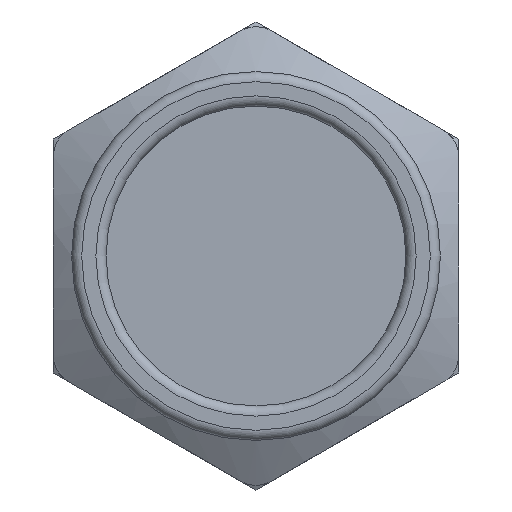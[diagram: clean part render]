
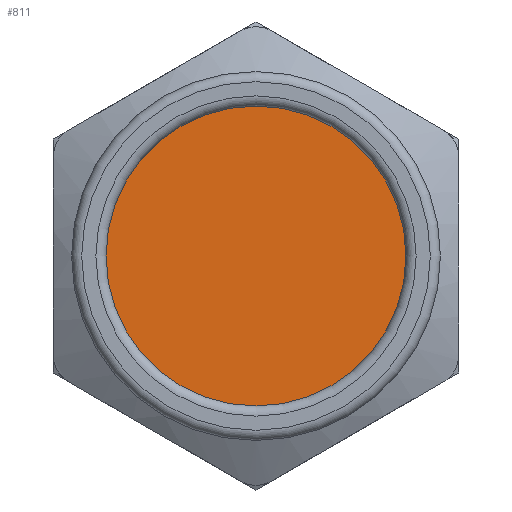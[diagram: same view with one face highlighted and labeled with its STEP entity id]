
A CAD part, left-side view. The second image highlights one B-rep face of the part: STEP entity #811.
In plain terms, the highlighted planar face has unit normal (-1, 0, 0).
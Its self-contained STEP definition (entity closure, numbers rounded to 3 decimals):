
#180=PLANE('',#913);
#222=FACE_OUTER_BOUND('',#269,.T.);
#269=EDGE_LOOP('',(#703,#704));
#290=CIRCLE('',#853,7.4);
#291=CIRCLE('',#854,7.4);
#329=VERTEX_POINT('',#1161);
#330=VERTEX_POINT('',#1163);
#415=EDGE_CURVE('',#329,#330,#290,.T.);
#416=EDGE_CURVE('',#330,#329,#291,.T.);
#703=ORIENTED_EDGE('',*,*,#416,.F.);
#704=ORIENTED_EDGE('',*,*,#415,.F.);
#811=ADVANCED_FACE('',(#222),#180,.T.);
#853=AXIS2_PLACEMENT_3D('',#1164,#950,#951);
#854=AXIS2_PLACEMENT_3D('',#1165,#952,#953);
#913=AXIS2_PLACEMENT_3D('',#1481,#1105,#1106);
#950=DIRECTION('center_axis',(1.,0.,0.));
#951=DIRECTION('ref_axis',(0.,0.,1.));
#952=DIRECTION('center_axis',(1.,0.,0.));
#953=DIRECTION('ref_axis',(0.,0.,1.));
#1105=DIRECTION('center_axis',(-1.,0.,0.));
#1106=DIRECTION('ref_axis',(0.,0.,1.));
#1161=CARTESIAN_POINT('',(-21.8,0.,-7.4));
#1163=CARTESIAN_POINT('',(-21.8,0.,7.4));
#1164=CARTESIAN_POINT('Origin',(-21.8,0.,0.));
#1165=CARTESIAN_POINT('Origin',(-21.8,0.,0.));
#1481=CARTESIAN_POINT('Origin',(-21.8,0.,0.));
